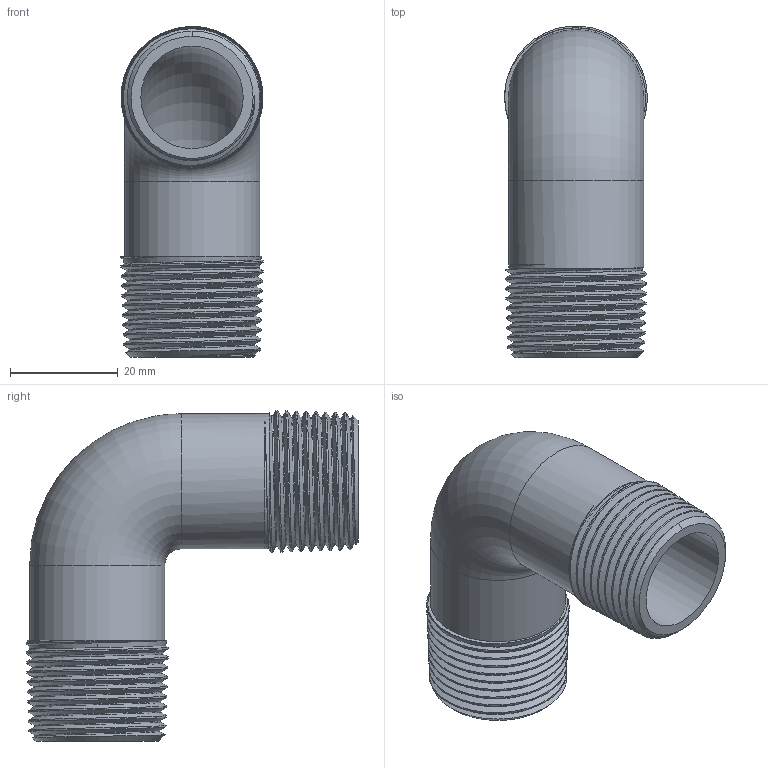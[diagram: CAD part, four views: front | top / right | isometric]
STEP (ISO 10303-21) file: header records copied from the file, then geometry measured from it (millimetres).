
FILE_DESCRIPTION(/* description */ ('Alibre Inc.'),/* implementation_level */ '2;1');
FILE_NAME(/* name */ 'export0',/* time_stamp */ '2016-11-29T12:03:39-05:00',/* author */ (''),/* organization */ (''),/* preprocessor_version */ 'ST-DEVELOPER v14',/* originating_system */ 'Alibre',/* authorisation */ '');
FILE_SCHEMA (('CONFIG_CONTROL_DESIGN'));
Length unit declared in the file: centimetre
Products named in the file (1): ID_2
Bounding box: 26.56 x 61.77 x 61.57 mm (x, y, z)
Volume: 18714.2 mm3; surface area: 14619.4 mm2
Topology: 1 solids, 1 shells, 72 faces, 203 edges, 134 vertices
Faces by surface type: cone 54, bspline 6, plane 5, cylinder 5, torus 2
Full cylindrical faces by diameter (mm): 19.05 x2, 25.146 x2
Entity records: 44420 total; most frequent: CARTESIAN_POINT 42756, ORIENTED_EDGE 388, DIRECTION 222, EDGE_CURVE 194, VERTEX_POINT 131, B_SPLINE_CURVE_WITH_KNOTS 118, AXIS2_PLACEMENT_3D 90, EDGE_LOOP 81
